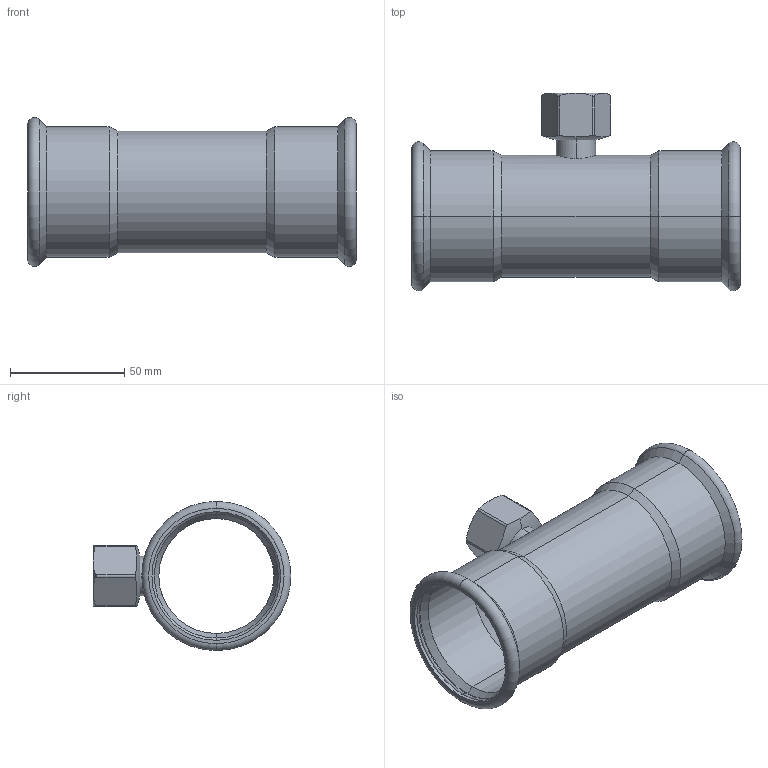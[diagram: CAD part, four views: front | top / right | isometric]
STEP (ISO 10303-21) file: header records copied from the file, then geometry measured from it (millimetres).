
FILE_DESCRIPTION (( 'STEP AP214' ), '1' );
FILE_NAME ('T54200F.STEP', '2025-08-17T13:59:27', ( '' ), ( '' ), 'SwSTEP 2.0', 'SolidWorks 2020', '' );
FILE_SCHEMA (( 'AUTOMOTIVE_DESIGN' ));
Length unit declared in the file: millimetre
Products named in the file (1): T54200F
Bounding box: 144 x 86.7 x 65.39 mm (x, y, z)
Volume: 46067.7 mm3; surface area: 60259.8 mm2
Topology: 3 solids, 3 shells, 104 faces, 249 edges, 150 vertices
Faces by surface type: cylinder 51, torus 20, cone 18, plane 12, bspline 3
Entity records: 6343 total; most frequent: CARTESIAN_POINT 2892, ORIENTED_EDGE 498, DIRECTION 454, EDGE_CURVE 249, AXIS2_PLACEMENT_3D 188, VERTEX_POINT 150, EDGE_LOOP 111, UNCERTAINTY_MEASURE_WITH_UNIT 109
